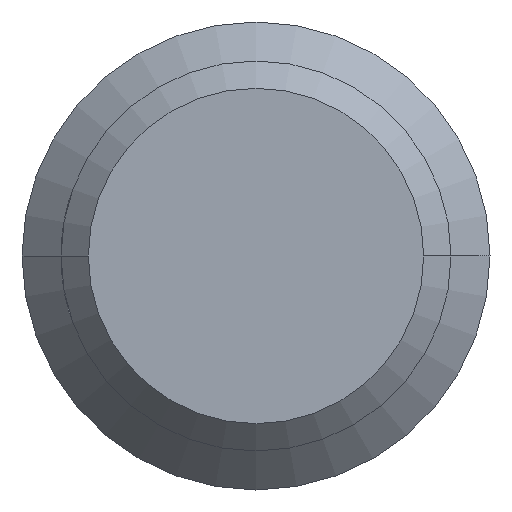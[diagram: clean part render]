
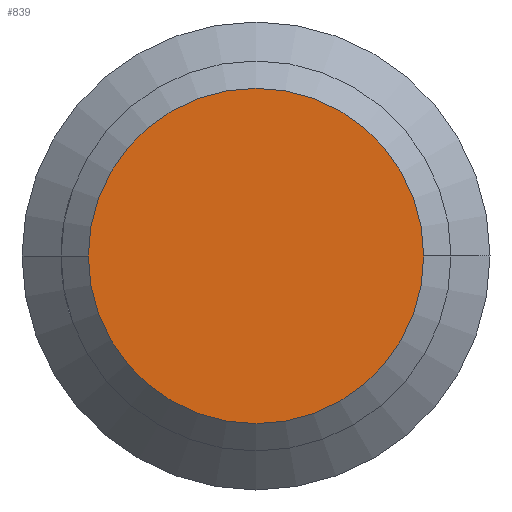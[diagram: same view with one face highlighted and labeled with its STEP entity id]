
A CAD part, left-side view. The second image highlights one B-rep face of the part: STEP entity #839.
In plain terms, the highlighted planar face has unit normal (-1, 0, 0).
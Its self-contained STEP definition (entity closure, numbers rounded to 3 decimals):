
#45 = VERTEX_POINT ( 'NONE', #564 ) ;
#49 = ORIENTED_EDGE ( 'NONE', *, *, #655, .T. ) ;
#110 = CIRCLE ( 'NONE', #111, 10.75 ) ;
#111 = AXIS2_PLACEMENT_3D ( 'NONE', #112, #113, #114 ) ;
#112 = CARTESIAN_POINT ( 'NONE',  ( -270., 0., 0. ) ) ;
#113 = DIRECTION ( 'NONE',  ( -1., 0., 0. ) ) ;
#114 = DIRECTION ( 'NONE',  ( 0., -1., 0. ) ) ;
#199 = CIRCLE ( 'NONE', #200, 10.75 ) ;
#200 = AXIS2_PLACEMENT_3D ( 'NONE', #201, #202, #203 ) ;
#201 = CARTESIAN_POINT ( 'NONE',  ( -270., 0., 0. ) ) ;
#202 = DIRECTION ( 'NONE',  ( -1., 0., 0. ) ) ;
#203 = DIRECTION ( 'NONE',  ( 0., -1., 0. ) ) ;
#443 = CARTESIAN_POINT ( 'NONE',  ( -270., 10.75, 0. ) ) ;
#501 = EDGE_CURVE ( 'NONE', #831, #45, #110, .T. ) ;
#528 = FACE_OUTER_BOUND ( 'NONE', #830, .T. ) ;
#529 = PLANE ( 'NONE',  #530 ) ;
#530 = AXIS2_PLACEMENT_3D ( 'NONE', #531, #532, #533 ) ;
#531 = CARTESIAN_POINT ( 'NONE',  ( -270., 0., 0. ) ) ;
#532 = DIRECTION ( 'NONE',  ( -1., 0., 0. ) ) ;
#533 = DIRECTION ( 'NONE',  ( 0., -1., 0. ) ) ;
#564 = CARTESIAN_POINT ( 'NONE',  ( -270., -10.75, 0. ) ) ;
#655 = EDGE_CURVE ( 'NONE', #45, #831, #199, .T. ) ;
#804 = ORIENTED_EDGE ( 'NONE', *, *, #501, .T. ) ;
#830 = EDGE_LOOP ( 'NONE', ( #804, #49 ) ) ;
#831 = VERTEX_POINT ( 'NONE', #443 ) ;
#839 = ADVANCED_FACE ( 'NONE', ( #528 ), #529, .T. ) ;
